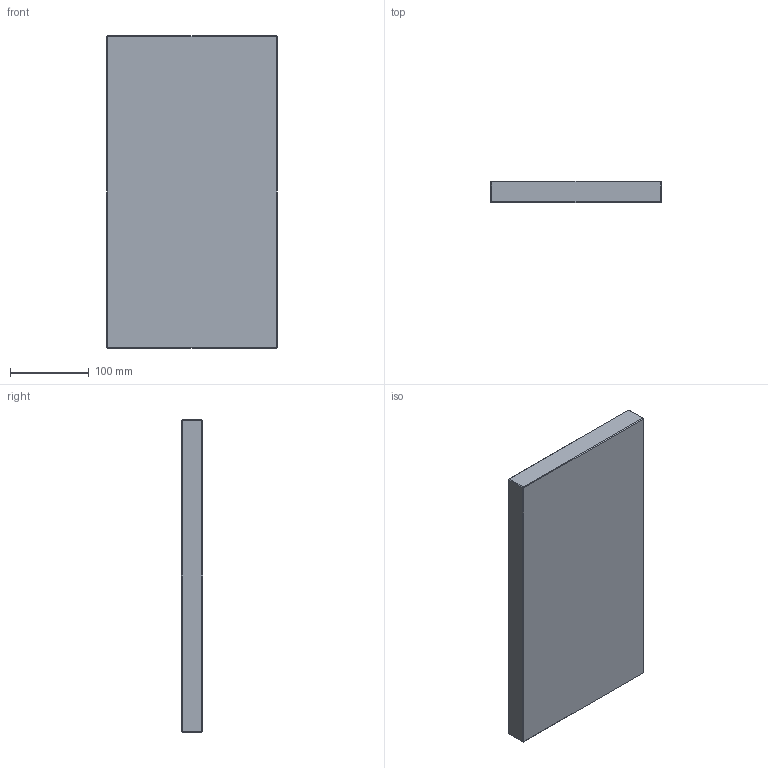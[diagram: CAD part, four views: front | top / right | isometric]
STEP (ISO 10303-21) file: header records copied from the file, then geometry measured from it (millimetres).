
FILE_DESCRIPTION (( 'STEP AP214' ), '1' );
FILE_NAME ('PBAV-P-216x296x27.STEP', '2020-03-25T16:28:45', ( 'August' ), ( '' ), 'SwSTEP 2.0', 'SolidWorks 2018', '' );
FILE_SCHEMA (( 'AUTOMOTIVE_DESIGN' ));
Length unit declared in the file: millimetre
Products named in the file (1): PBAV-P-216x296x27
Bounding box: 216 x 27 x 396 mm (x, y, z)
Volume: 2308199.3 mm3; surface area: 202619.7 mm2
Topology: 1 solids, 1 shells, 26 faces, 48 edges, 24 vertices
Faces by surface type: plane 26
Entity records: 634 total; most frequent: DIRECTION 102, CARTESIAN_POINT 99, ORIENTED_EDGE 96, EDGE_CURVE 48, VECTOR 48, LINE 48, AXIS2_PLACEMENT_3D 27, PLANE 26
